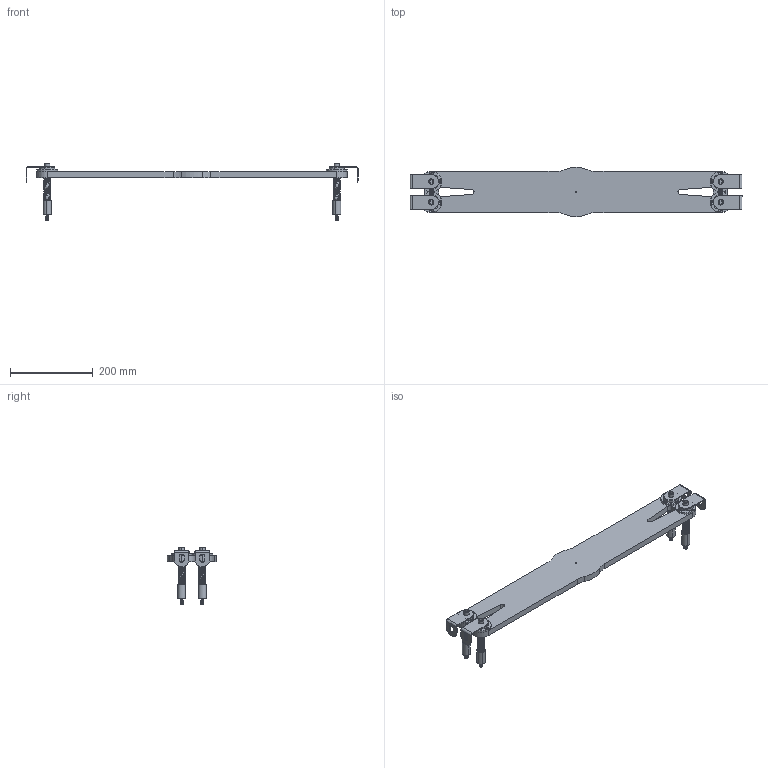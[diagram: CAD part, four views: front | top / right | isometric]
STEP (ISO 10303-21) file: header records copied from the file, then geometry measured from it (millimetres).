
FILE_DESCRIPTION (( 'STEP AP203' ), '1' );
FILE_NAME ('Floating attachment 700x50.STEP', '2020-04-07T04:56:45', ( '' ), ( '' ), 'SwSTEP 2.0', 'SolidWorks 2019', '' );
FILE_SCHEMA (( 'CONFIG_CONTROL_DESIGN' ));
Length unit declared in the file: millimetre
Products named in the file (1): Floating attachment 700x50
Bounding box: 803 x 119.56 x 139 mm (x, y, z)
Surface area: 281693.7 mm2 (no closed solid volume)
Topology: 0 solids, 49 shells, 614 faces, 1682 edges, 1126 vertices
Faces by surface type: cylinder 308, plane 150, cone 80, bspline 44, torus 32
Entity records: 51889 total; most frequent: CARTESIAN_POINT 36463, DIRECTION 3290, ORIENTED_EDGE 3028, EDGE_CURVE 1682, AXIS2_PLACEMENT_3D 1321, VERTEX_POINT 1126, EDGE_LOOP 750, CIRCLE 750
